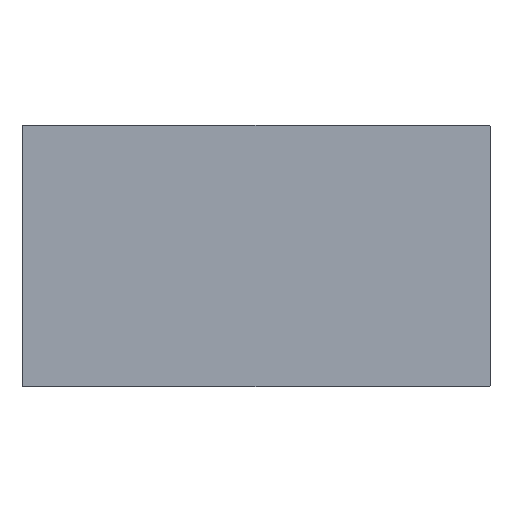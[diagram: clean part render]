
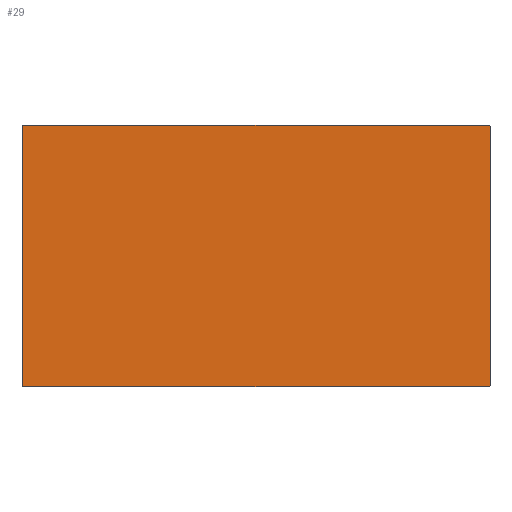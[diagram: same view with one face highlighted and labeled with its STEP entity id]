
A CAD part, top view. The second image highlights one B-rep face of the part: STEP entity #29.
In plain terms, the highlighted planar face has unit normal (0, 0, 1).
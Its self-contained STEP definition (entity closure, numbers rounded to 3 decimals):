
#29=ADVANCED_FACE('',(#53),#386,.T.);
#53=FACE_OUTER_BOUND('',#78,.T.);
#78=EDGE_LOOP('',(#151,#152,#153,#154,#155,#156,#157,#158));
#151=ORIENTED_EDGE('',*,*,#237,.T.);
#152=ORIENTED_EDGE('',*,*,#240,.F.);
#153=ORIENTED_EDGE('',*,*,#242,.F.);
#154=ORIENTED_EDGE('',*,*,#245,.F.);
#155=ORIENTED_EDGE('',*,*,#247,.T.);
#156=ORIENTED_EDGE('',*,*,#250,.F.);
#157=ORIENTED_EDGE('',*,*,#251,.F.);
#158=ORIENTED_EDGE('',*,*,#234,.F.);
#234=EDGE_CURVE('',#355,#356,#273,.T.);
#237=EDGE_CURVE('',#355,#357,#304,.T.);
#240=EDGE_CURVE('',#358,#357,#275,.T.);
#242=EDGE_CURVE('',#359,#358,#307,.T.);
#245=EDGE_CURVE('',#360,#359,#277,.T.);
#247=EDGE_CURVE('',#360,#361,#310,.T.);
#250=EDGE_CURVE('',#362,#361,#279,.T.);
#251=EDGE_CURVE('',#356,#362,#312,.T.);
#273=(
BOUNDED_CURVE()
B_SPLINE_CURVE(2,(#642,#643,#644),.UNSPECIFIED.,.F.,.F.)
B_SPLINE_CURVE_WITH_KNOTS((3,3),(-2.356,0.),.UNSPECIFIED.)
CURVE()
GEOMETRIC_REPRESENTATION_ITEM()
RATIONAL_B_SPLINE_CURVE((1.,0.707,1.))
REPRESENTATION_ITEM('')
);
#275=(
BOUNDED_CURVE()
B_SPLINE_CURVE(2,(#656,#657,#658),.UNSPECIFIED.,.F.,.F.)
B_SPLINE_CURVE_WITH_KNOTS((3,3),(-2.356,0.),.UNSPECIFIED.)
CURVE()
GEOMETRIC_REPRESENTATION_ITEM()
RATIONAL_B_SPLINE_CURVE((1.,0.707,1.))
REPRESENTATION_ITEM('')
);
#277=(
BOUNDED_CURVE()
B_SPLINE_CURVE(2,(#668,#669,#670),.UNSPECIFIED.,.F.,.F.)
B_SPLINE_CURVE_WITH_KNOTS((3,3),(-2.356,0.),.UNSPECIFIED.)
CURVE()
GEOMETRIC_REPRESENTATION_ITEM()
RATIONAL_B_SPLINE_CURVE((1.,0.707,1.))
REPRESENTATION_ITEM('')
);
#279=(
BOUNDED_CURVE()
B_SPLINE_CURVE(2,(#680,#681,#682),.UNSPECIFIED.,.F.,.F.)
B_SPLINE_CURVE_WITH_KNOTS((3,3),(-2.356,0.),.UNSPECIFIED.)
CURVE()
GEOMETRIC_REPRESENTATION_ITEM()
RATIONAL_B_SPLINE_CURVE((1.,0.707,1.))
REPRESENTATION_ITEM('')
);
#304=B_SPLINE_CURVE_WITH_KNOTS('',1,(#649,#650),.UNSPECIFIED.,.F.,.F.,(2,
2),(0.,498.),.UNSPECIFIED.);
#307=B_SPLINE_CURVE_WITH_KNOTS('',1,(#661,#662),.UNSPECIFIED.,.F.,.F.,(2,
2),(0.,894.),.UNSPECIFIED.);
#310=B_SPLINE_CURVE_WITH_KNOTS('',1,(#673,#674),.UNSPECIFIED.,.F.,.F.,(2,
2),(0.,498.),.UNSPECIFIED.);
#312=B_SPLINE_CURVE_WITH_KNOTS('',1,(#683,#684),.UNSPECIFIED.,.F.,.F.,(2,
2),(0.,894.),.UNSPECIFIED.);
#355=VERTEX_POINT('',#577);
#356=VERTEX_POINT('',#578);
#357=VERTEX_POINT('',#579);
#358=VERTEX_POINT('',#580);
#359=VERTEX_POINT('',#581);
#360=VERTEX_POINT('',#582);
#361=VERTEX_POINT('',#583);
#362=VERTEX_POINT('',#584);
#386=PLANE('',#426);
#426=AXIS2_PLACEMENT_3D('',#544,#449,$);
#449=DIRECTION('',(0.,0.,1.));
#544=CARTESIAN_POINT('',(-538.26,-300.66,0.));
#577=CARTESIAN_POINT('',(-448.5,249.,0.));
#578=CARTESIAN_POINT('',(-447.,250.5,0.));
#579=CARTESIAN_POINT('',(-448.5,-249.,0.));
#580=CARTESIAN_POINT('',(-447.,-250.5,0.));
#581=CARTESIAN_POINT('',(447.,-250.5,0.));
#582=CARTESIAN_POINT('',(448.5,-249.,0.));
#583=CARTESIAN_POINT('',(448.5,249.,0.));
#584=CARTESIAN_POINT('',(447.,250.5,0.));
#642=CARTESIAN_POINT('',(-448.5,249.,0.));
#643=CARTESIAN_POINT('',(-448.5,250.5,0.));
#644=CARTESIAN_POINT('',(-447.,250.5,0.));
#649=CARTESIAN_POINT('',(-448.5,249.,0.));
#650=CARTESIAN_POINT('',(-448.5,-249.,0.));
#656=CARTESIAN_POINT('',(-447.,-250.5,0.));
#657=CARTESIAN_POINT('',(-448.5,-250.5,0.));
#658=CARTESIAN_POINT('',(-448.5,-249.,0.));
#661=CARTESIAN_POINT('',(447.,-250.5,0.));
#662=CARTESIAN_POINT('',(-447.,-250.5,0.));
#668=CARTESIAN_POINT('',(448.5,-249.,0.));
#669=CARTESIAN_POINT('',(448.5,-250.5,0.));
#670=CARTESIAN_POINT('',(447.,-250.5,0.));
#673=CARTESIAN_POINT('',(448.5,-249.,0.));
#674=CARTESIAN_POINT('',(448.5,249.,0.));
#680=CARTESIAN_POINT('',(447.,250.5,0.));
#681=CARTESIAN_POINT('',(448.5,250.5,0.));
#682=CARTESIAN_POINT('',(448.5,249.,0.));
#683=CARTESIAN_POINT('',(-447.,250.5,0.));
#684=CARTESIAN_POINT('',(447.,250.5,0.));
